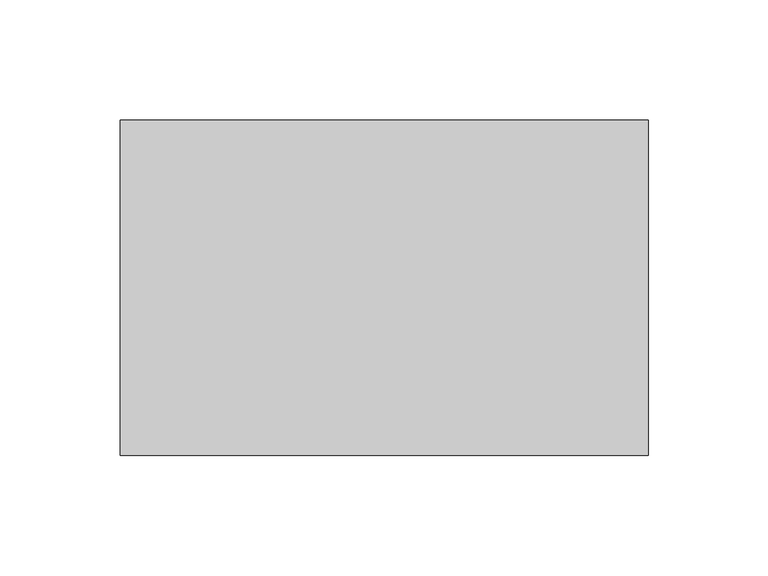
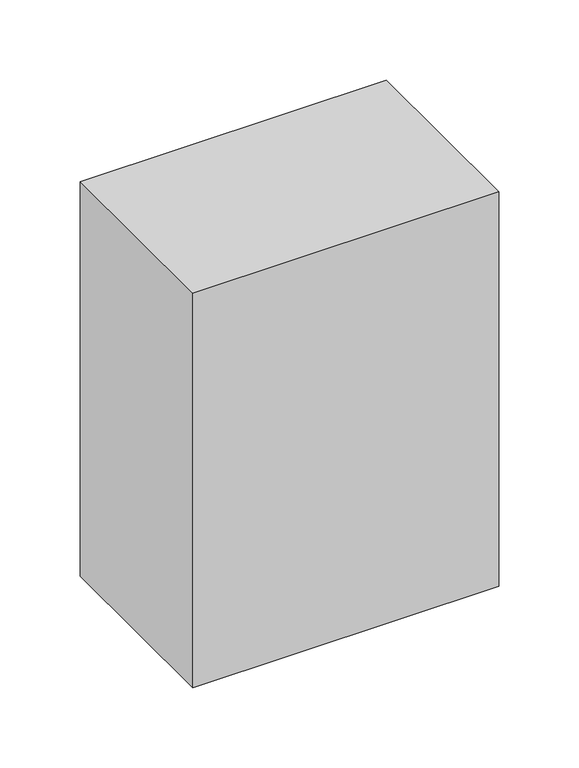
"""IFC4 building model written with IfcOpenShell, lengths in millimetres: proxy geometry."""

import ifcopenshell
import ifcopenshell.guid

model = None  # the IFC model being written
_history = None  # IfcOwnerHistory: only IFC2X3 demands one
_inside = {}  # id of a spatial element -> (the spatial element, [elements in it])
_under = {}  # id of a project, library or spatial element -> (it, [spatial elements below it])
_declared = {}  # id of a project -> (the project, [libraries it declares])
_typed = {}  # id of a type object -> (the type object, [elements of that type])
_made_of = {}  # id of a material, layer set ... -> (it, [elements and type objects made of it])


def new_model(schema):
    """Start an empty IFC model of exactly this schema.

    Asked for "IFC4X3", IfcOpenShell would pick the latest addendum, in which some entities
    have other attributes; the version numbers below select the first issue.
    IFC2X3 requires an IfcOwnerHistory on every rooted entity: one is made here for all.
    """
    global model, _history
    if schema == "IFC4X3":
        model = ifcopenshell.file(schema_version=(4, 3, 0, 0))
    else:
        model = ifcopenshell.file(schema=schema)
    _inside.clear()
    _under.clear()
    _declared.clear()
    _typed.clear()
    _made_of.clear()
    _history = None
    if model.schema == "IFC2X3":
        org = make("IfcOrganization", Name="unknown")
        user = make(
            "IfcPersonAndOrganization",
            ThePerson=make("IfcPerson", FamilyName="unknown"),
            TheOrganization=org,
        )
        app = make(
            "IfcApplication",
            ApplicationDeveloper=org,
            Version="unknown",
            ApplicationFullName="unknown",
            ApplicationIdentifier="unknown",
        )
        _history = make(
            "IfcOwnerHistory",
            OwningUser=user,
            OwningApplication=app,
            ChangeAction="ADDED",
            CreationDate=0,
        )
    return model


def make(cls, **values):
    """One entity of the class cls with the attributes given. An attribute that is None is left unset."""
    return model.create_entity(
        cls, **{name: value for name, value in values.items() if value is not None}
    )


def rooted(cls, **values):
    """An entity with a GlobalId (a new one), such as an element, a storey or a relation."""
    return make(cls, GlobalId=ifcopenshell.guid.new(), OwnerHistory=_history, **values)


def si_unit(unit_type, name, prefix=None):
    """IfcSIUnit, for example si_unit("LENGTHUNIT", "METRE", prefix="MILLI")."""
    return make("IfcSIUnit", UnitType=unit_type, Prefix=prefix, Name=name)


def assignment(units):
    """IfcUnitAssignment: the units of a project."""
    return None if units is None else make("IfcUnitAssignment", Units=units)


def point(xyz):
    """IfcCartesianPoint."""
    return None if xyz is None else make("IfcCartesianPoint", Coordinates=xyz)


def direction(xyz):
    """IfcDirection."""
    return None if xyz is None else make("IfcDirection", DirectionRatios=xyz)


def frame(location, z_axis=None, x_axis=None):
    """IfcAxis2Placement3D, a coordinate frame: its origin and axes. An axis left out is left unset."""
    return make(
        "IfcAxis2Placement3D",
        Location=point(location),
        Axis=direction(z_axis),
        RefDirection=direction(x_axis),
    )


def origin():
    """The frame at (0, 0, 0) with its axes left unset."""
    return frame((0.0, 0.0, 0.0))


def place(relative_to, where):
    """IfcLocalPlacement: puts the frame where relative to a parent placement (None: the world)."""
    return make(
        "IfcLocalPlacement", PlacementRelTo=relative_to, RelativePlacement=where
    )


def context(
    kind, dimensions, precision=None, world=None, true_north=None, identifier=None
):
    """IfcGeometricRepresentationContext, for example the 3D "Model" context."""
    return make(
        "IfcGeometricRepresentationContext",
        ContextIdentifier=identifier,
        ContextType=kind,
        CoordinateSpaceDimension=dimensions,
        Precision=precision,
        WorldCoordinateSystem=world,
        TrueNorth=true_north,
    )


def project(units=None, contexts=None):
    """IfcProject with its units and contexts."""
    return rooted(
        "IfcProject",
        Name="project",
        RepresentationContexts=contexts,
        UnitsInContext=assignment(units),
    )


def spatial(cls, under=None, at=None, **own):
    """A site, building, storey or space (cls), placed at a placement, below another one or the project."""
    s = rooted(cls, ObjectPlacement=at, **own)
    if under is not None:
        _under.setdefault(under.id(), (under, []))[1].append(s)
    return s


def polyline(points):
    """IfcPolyline through the points."""
    return make("IfcPolyline", Points=[point(p) for p in points])


def outline(outer, holes=None, kind="AREA"):
    """IfcArbitraryClosedProfileDef: a profile drawn as a closed curve; with holes, ...WithVoids."""
    if holes is None:
        return make("IfcArbitraryClosedProfileDef", ProfileType=kind, OuterCurve=outer)
    return make(
        "IfcArbitraryProfileDefWithVoids",
        ProfileType=kind,
        OuterCurve=outer,
        InnerCurves=holes,
    )


def extrude(swept, where, along, depth):
    """IfcExtrudedAreaSolid: the profile swept, set in the frame where, extruded along a direction by depth."""
    return make(
        "IfcExtrudedAreaSolid",
        SweptArea=swept,
        Position=where,
        ExtrudedDirection=direction(along),
        Depth=depth,
    )


def shape(context_of_items, identifier, shape_type, items):
    """IfcShapeRepresentation: the items that make up one representation, for example the "Body"."""
    return make(
        "IfcShapeRepresentation",
        ContextOfItems=context_of_items,
        RepresentationIdentifier=identifier,
        RepresentationType=shape_type,
        Items=items,
    )


def source(mapping_origin, context_of_items, identifier, shape_type, items):
    """IfcRepresentationMap: a shape defined once, which mapped items show again and again."""
    return make(
        "IfcRepresentationMap",
        MappingOrigin=mapping_origin,
        MappedRepresentation=shape(context_of_items, identifier, shape_type, items),
    )


def transform(
    local_origin,
    x_axis=None,
    y_axis=None,
    z_axis=None,
    scale=None,
    scale2=None,
    scale3=None,
    uniform=True,
):
    """IfcCartesianTransformationOperator3D, or its non-uniform kind. x_axis, y_axis, z_axis: its Axis1, 2, 3."""
    if uniform:
        return make(
            "IfcCartesianTransformationOperator3D",
            Axis1=direction(x_axis),
            Axis2=direction(y_axis),
            LocalOrigin=point(local_origin),
            Scale=scale,
            Axis3=direction(z_axis),
        )
    return make(
        "IfcCartesianTransformationOperator3DnonUniform",
        Axis1=direction(x_axis),
        Axis2=direction(y_axis),
        LocalOrigin=point(local_origin),
        Scale=scale,
        Axis3=direction(z_axis),
        Scale2=scale2,
        Scale3=scale3,
    )


def mapped(mapping_source, mapping_target):
    """IfcMappedItem: shows the shape of a source again, moved by a transform."""
    return make(
        "IfcMappedItem", MappingSource=mapping_source, MappingTarget=mapping_target
    )


def made_of(thing, what):
    """Note that an element or type object is made of a material, layer set ...; save() writes the relation."""
    if what is not None:
        _made_of.setdefault(what.id(), (what, []))[1].append(thing)
    return thing


def element(
    cls,
    number,
    at=None,
    inside=None,
    cuts=None,
    type_object=None,
    material=None,
    context=None,
    identifier="Body",
    shape_type=None,
    held_by="IfcProductDefinitionShape",
    body=None,
    shapes=None,
    **own,
):
    """One element of the class cls, such as IfcWall. Its Tag is "e" and its number.

    at: its placement. inside: the storey or other place that contains it. cuts: it is an
    opening in that element (IfcRelVoidsElement). A single representation is given by context,
    identifier, shape_type and body (its items); several are given by shapes. held_by: the class
    of the entity that holds the representations. save() writes the other relations.
    """
    e = rooted(cls, Tag="e%d" % number, ObjectPlacement=at, **own)
    if body is not None:
        shapes = [shape(context, identifier, shape_type, body)]
    if shapes is not None:
        e.Representation = make(held_by, Representations=shapes)
    if inside is not None:
        _inside.setdefault(inside.id(), (inside, []))[1].append(e)
    if cuts is not None:
        rooted(
            "IfcRelVoidsElement", RelatingBuildingElement=cuts, RelatedOpeningElement=e
        )
    if type_object is not None:
        _typed.setdefault(type_object.id(), (type_object, []))[1].append(e)
    return made_of(e, material)


def aggregate(whole, parts):
    """IfcRelAggregates: a whole, such as a stair, and the parts it consists of."""
    return rooted("IfcRelAggregates", RelatingObject=whole, RelatedObjects=parts)


def save(model, path):
    """Write the relations noted so far, then the file.

    IfcRelAggregates (storeys below a building ...), IfcRelContainedInSpatialStructure (elements
    in a storey), IfcRelDefinesByType, IfcRelAssociatesMaterial and IfcRelDeclares: one each for
    every whole, place, type object, material and project.
    """
    for whole, parts in _under.values():
        aggregate(whole, parts)
    for where, things in _inside.values():
        rooted(
            "IfcRelContainedInSpatialStructure",
            RelatedElements=things,
            RelatingStructure=where,
        )
    for kind, things in _typed.values():
        rooted("IfcRelDefinesByType", RelatedObjects=things, RelatingType=kind)
    for what, things in _made_of.values():
        rooted("IfcRelAssociatesMaterial", RelatedObjects=things, RelatingMaterial=what)
    for by, libraries in _declared.values():
        rooted("IfcRelDeclares", RelatingContext=by, RelatedDefinitions=libraries)
    model.write(path)


def structural_framing_c78f2c7d(model_context):
    return source(origin(), model_context, "Body", "SweptSolid", [
        extrude(outline(polyline([(-110.0, -70.0), (-110.0, 70.0), (110.0, 70.0), (110.0, -70.0), (-110.0, -70.0)])), frame((0.0, 0.0, -300.0), z_axis=(0.0, 0.0, 1.0), x_axis=(1.0, 0.0, 0.0)), (0.0, 0.0, 1.0), 300.0),
    ])


if __name__ == "__main__":
    model = new_model("IFC4")
    model_context = context("Model", 3, world=origin())
    ifc_project = project(units=[si_unit("LENGTHUNIT", "METRE", prefix="MILLI")], contexts=[model_context])
    site = spatial("IfcSite", under=ifc_project)
    building = spatial("IfcBuilding", under=site)
    placement = place(None, origin())
    structural_framing_shape = structural_framing_c78f2c7d(model_context)
    element("IfcBuildingElementProxy", 1, Name="Structural Framing", at=placement, inside=building, context=model_context, shape_type="MappedRepresentation", body=[
        mapped(structural_framing_shape, transform((0.0, 0.0, 0.0), x_axis=(1.0, 0.0, 0.0), y_axis=(0.0, 1.0, 0.0), z_axis=(0.0, 0.0, 1.0))),
    ])
    save(model, "model.ifc")
